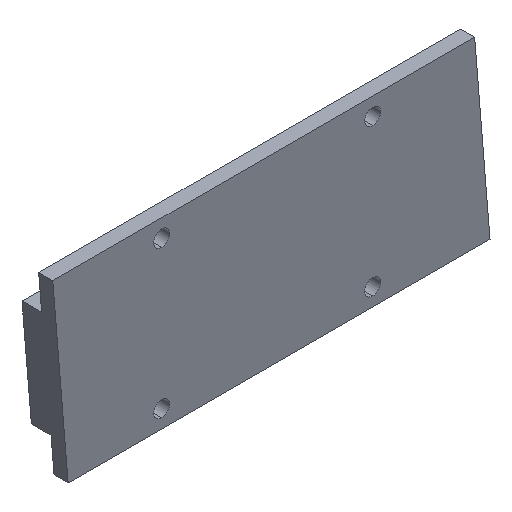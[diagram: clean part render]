
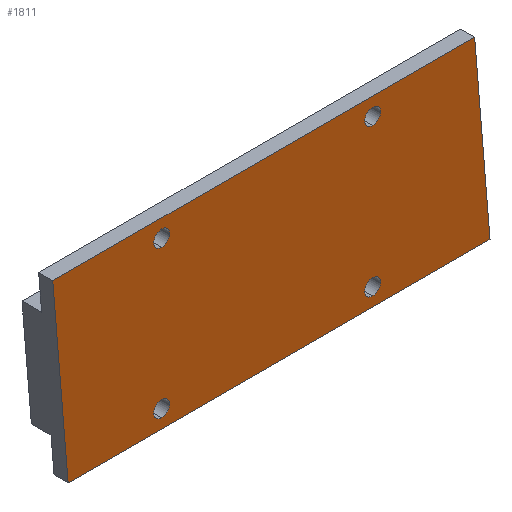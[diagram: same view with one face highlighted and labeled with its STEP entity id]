
A CAD part, isometric view. The second image highlights one B-rep face of the part: STEP entity #1811.
In plain terms, the highlighted planar face has unit normal (0, -1, 0).
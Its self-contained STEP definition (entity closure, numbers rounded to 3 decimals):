
#16 = AXIS2_PLACEMENT_3D ( 'NONE', #468, #95, #986 ) ;
#30 = VERTEX_POINT ( 'NONE', #1504 ) ;
#64 = CIRCLE ( 'NONE', #1957, 2.25 ) ;
#69 = VERTEX_POINT ( 'NONE', #809 ) ;
#91 = VERTEX_POINT ( 'NONE', #2001 ) ;
#95 = DIRECTION ( 'NONE',  ( 0., -1., 0. ) ) ;
#99 = AXIS2_PLACEMENT_3D ( 'NONE', #904, #1612, #2113 ) ;
#141 = ORIENTED_EDGE ( 'NONE', *, *, #858, .F. ) ;
#147 = DIRECTION ( 'NONE',  ( -0.084, 0., 0.997 ) ) ;
#154 = CARTESIAN_POINT ( 'NONE',  ( -62.18, 0., 26. ) ) ;
#163 = CARTESIAN_POINT ( 'NONE',  ( -31.18, 0., 18.75 ) ) ;
#219 = DIRECTION ( 'NONE',  ( 0., 0., -1. ) ) ;
#229 = CARTESIAN_POINT ( 'NONE',  ( 28.82, 0., -21. ) ) ;
#261 = DIRECTION ( 'NONE',  ( 0., 0., -1. ) ) ;
#268 = VERTEX_POINT ( 'NONE', #898 ) ;
#278 = DIRECTION ( 'NONE',  ( 0.084, 0., -0.997 ) ) ;
#280 = FACE_BOUND ( 'NONE', #1419, .T. ) ;
#319 = ORIENTED_EDGE ( 'NONE', *, *, #612, .F. ) ;
#341 = DIRECTION ( 'NONE',  ( 0., -1., 0. ) ) ;
#352 = EDGE_CURVE ( 'NONE', #1712, #1487, #1154, .T. ) ;
#353 = ORIENTED_EDGE ( 'NONE', *, *, #1190, .F. ) ;
#389 = CIRCLE ( 'NONE', #552, 2.25 ) ;
#406 = CARTESIAN_POINT ( 'NONE',  ( -31.18, 0., 21. ) ) ;
#415 = CARTESIAN_POINT ( 'NONE',  ( -31.18, 0., 21. ) ) ;
#421 = CARTESIAN_POINT ( 'NONE',  ( -62.18, 0., 26. ) ) ;
#441 = ORIENTED_EDGE ( 'NONE', *, *, #825, .F. ) ;
#447 = CARTESIAN_POINT ( 'NONE',  ( 28.82, 0., -18.75 ) ) ;
#468 = CARTESIAN_POINT ( 'NONE',  ( 28.82, 0., 21. ) ) ;
#477 = FACE_BOUND ( 'NONE', #1854, .T. ) ;
#490 = DIRECTION ( 'NONE',  ( 0., -1., 0. ) ) ;
#508 = ORIENTED_EDGE ( 'NONE', *, *, #1208, .F. ) ;
#520 = LINE ( 'NONE', #154, #2032 ) ;
#532 = LINE ( 'NONE', #1029, #2253 ) ;
#552 = AXIS2_PLACEMENT_3D ( 'NONE', #2198, #1393, #1361 ) ;
#558 = VERTEX_POINT ( 'NONE', #163 ) ;
#591 = DIRECTION ( 'NONE',  ( 0., -1., 0. ) ) ;
#592 = DIRECTION ( 'NONE',  ( 0., -1., 0. ) ) ;
#595 = FACE_BOUND ( 'NONE', #921, .T. ) ;
#600 = EDGE_CURVE ( 'NONE', #30, #268, #532, .T. ) ;
#612 = EDGE_CURVE ( 'NONE', #1099, #69, #1654, .T. ) ;
#625 = PLANE ( 'NONE',  #1664 ) ;
#695 = FACE_BOUND ( 'NONE', #2123, .T. ) ;
#698 = EDGE_LOOP ( 'NONE', ( #441, #2134, #1325, #1141 ) ) ;
#711 = EDGE_CURVE ( 'NONE', #1791, #1494, #389, .T. ) ;
#781 = FACE_OUTER_BOUND ( 'NONE', #698, .T. ) ;
#802 = DIRECTION ( 'NONE',  ( 0., 0., -1. ) ) ;
#809 = CARTESIAN_POINT ( 'NONE',  ( 28.82, 0., 23.25 ) ) ;
#825 = EDGE_CURVE ( 'NONE', #91, #30, #1591, .T. ) ;
#848 = AXIS2_PLACEMENT_3D ( 'NONE', #1905, #341, #2086 ) ;
#858 = EDGE_CURVE ( 'NONE', #1487, #1712, #1201, .T. ) ;
#882 = AXIS2_PLACEMENT_3D ( 'NONE', #415, #591, #219 ) ;
#898 = CARTESIAN_POINT ( 'NONE',  ( -57.82, 0., -26. ) ) ;
#901 = VECTOR ( 'NONE', #278, 1000. ) ;
#904 = CARTESIAN_POINT ( 'NONE',  ( -31.18, 0., -21. ) ) ;
#919 = DIRECTION ( 'NONE',  ( 1., 0., 0. ) ) ;
#921 = EDGE_LOOP ( 'NONE', ( #1578, #992 ) ) ;
#927 = CIRCLE ( 'NONE', #882, 2.25 ) ;
#944 = ORIENTED_EDGE ( 'NONE', *, *, #352, .F. ) ;
#986 = DIRECTION ( 'NONE',  ( 0., 0., -1. ) ) ;
#992 = ORIENTED_EDGE ( 'NONE', *, *, #1468, .F. ) ;
#1010 = CARTESIAN_POINT ( 'NONE',  ( -31.18, 0., -21. ) ) ;
#1029 = CARTESIAN_POINT ( 'NONE',  ( -57.82, 0., -26. ) ) ;
#1083 = VERTEX_POINT ( 'NONE', #1914 ) ;
#1099 = VERTEX_POINT ( 'NONE', #1895 ) ;
#1141 = ORIENTED_EDGE ( 'NONE', *, *, #600, .F. ) ;
#1154 = CIRCLE ( 'NONE', #99, 2.25 ) ;
#1155 = CIRCLE ( 'NONE', #16, 2.25 ) ;
#1159 = LINE ( 'NONE', #421, #1753 ) ;
#1166 = ORIENTED_EDGE ( 'NONE', *, *, #2036, .F. ) ;
#1190 = EDGE_CURVE ( 'NONE', #558, #1469, #1381, .T. ) ;
#1201 = CIRCLE ( 'NONE', #1553, 2.25 ) ;
#1206 = DIRECTION ( 'NONE',  ( -1., 0., 0. ) ) ;
#1208 = EDGE_CURVE ( 'NONE', #1469, #558, #927, .T. ) ;
#1291 = EDGE_CURVE ( 'NONE', #268, #1083, #520, .T. ) ;
#1299 = CARTESIAN_POINT ( 'NONE',  ( -31.18, 0., -18.75 ) ) ;
#1302 = CARTESIAN_POINT ( 'NONE',  ( 28.82, 0., -23.25 ) ) ;
#1325 = ORIENTED_EDGE ( 'NONE', *, *, #1291, .F. ) ;
#1352 = DIRECTION ( 'NONE',  ( 0., 0., -1. ) ) ;
#1361 = DIRECTION ( 'NONE',  ( 0., 0., -1. ) ) ;
#1372 = AXIS2_PLACEMENT_3D ( 'NONE', #406, #1453, #1633 ) ;
#1381 = CIRCLE ( 'NONE', #1372, 2.25 ) ;
#1393 = DIRECTION ( 'NONE',  ( 0., -1., 0. ) ) ;
#1419 = EDGE_LOOP ( 'NONE', ( #508, #353 ) ) ;
#1453 = DIRECTION ( 'NONE',  ( 0., -1., 0. ) ) ;
#1468 = EDGE_CURVE ( 'NONE', #1494, #1791, #64, .T. ) ;
#1469 = VERTEX_POINT ( 'NONE', #1949 ) ;
#1473 = DIRECTION ( 'NONE',  ( 0., -1., 0. ) ) ;
#1487 = VERTEX_POINT ( 'NONE', #1964 ) ;
#1494 = VERTEX_POINT ( 'NONE', #1302 ) ;
#1504 = CARTESIAN_POINT ( 'NONE',  ( 62.18, 0., -26. ) ) ;
#1526 = EDGE_CURVE ( 'NONE', #1083, #91, #1159, .T. ) ;
#1553 = AXIS2_PLACEMENT_3D ( 'NONE', #1010, #490, #1352 ) ;
#1578 = ORIENTED_EDGE ( 'NONE', *, *, #711, .F. ) ;
#1591 = LINE ( 'NONE', #2003, #901 ) ;
#1612 = DIRECTION ( 'NONE',  ( 0., -1., 0. ) ) ;
#1633 = DIRECTION ( 'NONE',  ( 0., 0., -1. ) ) ;
#1654 = CIRCLE ( 'NONE', #848, 2.25 ) ;
#1664 = AXIS2_PLACEMENT_3D ( 'NONE', #1825, #1473, #802 ) ;
#1712 = VERTEX_POINT ( 'NONE', #1299 ) ;
#1753 = VECTOR ( 'NONE', #919, 1000. ) ;
#1791 = VERTEX_POINT ( 'NONE', #447 ) ;
#1811 = ADVANCED_FACE ( 'NONE', ( #695, #477, #595, #280, #781 ), #625, .T. ) ;
#1825 = CARTESIAN_POINT ( 'NONE',  ( 0., 0., 0. ) ) ;
#1854 = EDGE_LOOP ( 'NONE', ( #944, #141 ) ) ;
#1895 = CARTESIAN_POINT ( 'NONE',  ( 28.82, 0., 18.75 ) ) ;
#1905 = CARTESIAN_POINT ( 'NONE',  ( 28.82, 0., 21. ) ) ;
#1914 = CARTESIAN_POINT ( 'NONE',  ( -62.18, 0., 26. ) ) ;
#1949 = CARTESIAN_POINT ( 'NONE',  ( -31.18, 0., 23.25 ) ) ;
#1957 = AXIS2_PLACEMENT_3D ( 'NONE', #229, #592, #261 ) ;
#1964 = CARTESIAN_POINT ( 'NONE',  ( -31.18, 0., -23.25 ) ) ;
#2001 = CARTESIAN_POINT ( 'NONE',  ( 57.82, 0., 26. ) ) ;
#2003 = CARTESIAN_POINT ( 'NONE',  ( 57.82, 0., 26. ) ) ;
#2032 = VECTOR ( 'NONE', #147, 1000. ) ;
#2036 = EDGE_CURVE ( 'NONE', #69, #1099, #1155, .T. ) ;
#2086 = DIRECTION ( 'NONE',  ( 0., 0., -1. ) ) ;
#2113 = DIRECTION ( 'NONE',  ( 0., 0., -1. ) ) ;
#2123 = EDGE_LOOP ( 'NONE', ( #1166, #319 ) ) ;
#2134 = ORIENTED_EDGE ( 'NONE', *, *, #1526, .F. ) ;
#2198 = CARTESIAN_POINT ( 'NONE',  ( 28.82, 0., -21. ) ) ;
#2253 = VECTOR ( 'NONE', #1206, 1000. ) ;
